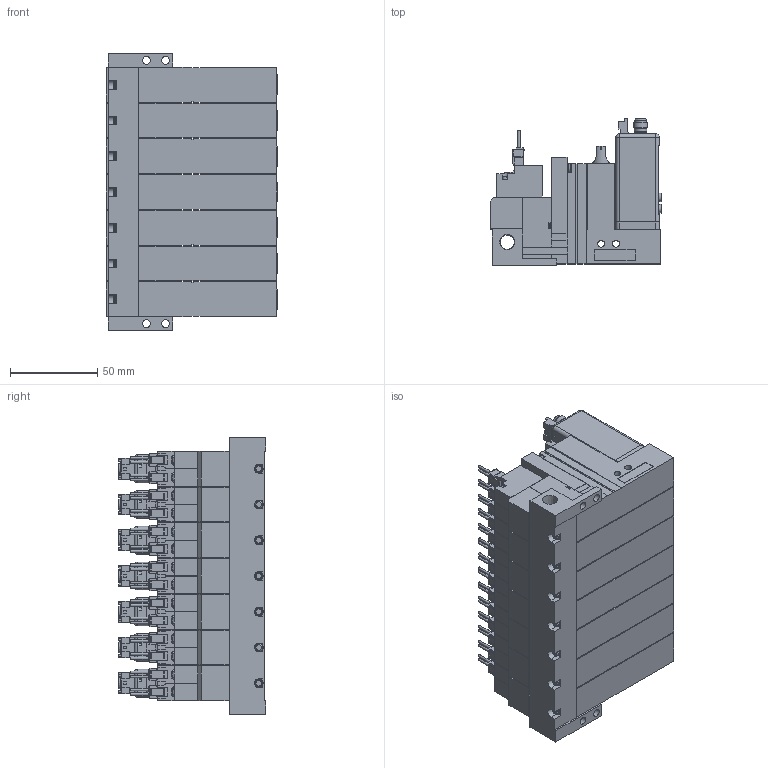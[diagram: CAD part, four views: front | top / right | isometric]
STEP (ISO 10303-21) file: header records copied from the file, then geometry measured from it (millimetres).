
FILE_DESCRIPTION(('STEP AP203'),'1');
FILE_NAME('22_22PLC5BLR707.stp','2025-06-12T05:14:17',(' '),(' '),'Spatial InterOp 3D',' ',' ');
FILE_SCHEMA(('CONFIG_CONTROL_DESIGN'));
Length unit declared in the file: millimetre
Products named in the file (11): BMC22M※※※※22_22PLC5BLR707; Solenoid valve B; Unit LC; Base MR70R; MVS-202
Assembly tree (22 placements, depth 2):
  BMC22M※※※※22_22PLC5BLR707
    Solenoid valve B  x7
    Unit LC  x7
    Base MR70R
    MVS-202
    MVS-202
    MVS-202
    MVS-202
    MVS-202
    MVS-202
    MVS-202
Bounding box: 98.5 x 84.6 x 159 mm (x, y, z)
Volume: 759698.8 mm3; surface area: 215978.3 mm2
Topology: 22 solids, 50 shells, 5481 faces, 14290 edges, 9322 vertices
Faces by surface type: plane 4620, cylinder 663, cone 114, torus 56, sphere 28
Full cylindrical faces by diameter (mm): 1 x28, 1.4 x28, 1.5 x7, 2.5 x7, 3 x28, 3.5 x28, 3.6 x7, 4 x14, 4.134 x7, 4.5 x32, 4.8 x21, 5 x14, 5.2 x7, 5.8 x14, 6 x14, 6.5 x21, 6.6 x7, 7 x7, 7.2 x7, 7.9 x7, 8 x14, 8.279 x1
Entity records: 101575 total; most frequent: CARTESIAN_POINT 18315, ORIENTED_EDGE 16610, DIRECTION 16405, EDGE_CURVE 8305, LINE 6999, VECTOR 6999, VERTEX_POINT 5617, AXIS2_PLACEMENT_3D 4703
